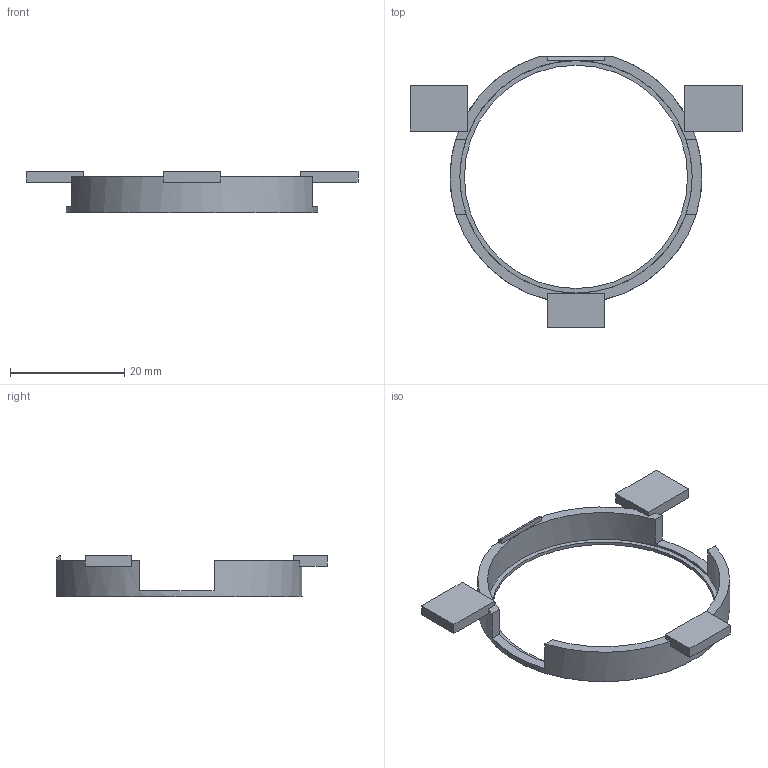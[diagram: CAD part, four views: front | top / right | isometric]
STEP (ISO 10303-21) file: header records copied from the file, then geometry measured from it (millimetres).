
FILE_DESCRIPTION(('Open CASCADE Model'),'2;1');
FILE_NAME('Open CASCADE Shape Model','2026-09-04T20:18:27',('Author'),( 'Open CASCADE'),'Open CASCADE STEP processor 7.7','Open CASCADE 7.7' ,'Unknown');
FILE_SCHEMA(('AUTOMOTIVE_DESIGN { 1 0 10303 214 1 1 1 1 }'));
Length unit declared in the file: millimetre
Products named in the file (1): Open CASCADE STEP translator 7.7 6
Bounding box: 58 x 47.3 x 7.2 mm (x, y, z)
Volume: 1592.8 mm3; surface area: 2636.9 mm2
Topology: 1 solids, 1 shells, 38 faces, 106 edges, 70 vertices
Faces by surface type: plane 34, cylinder 4
Full cylindrical faces by diameter (mm): 39 x1
Entity records: 2657 total; most frequent: CARTESIAN_POINT 533, DIRECTION 399, LINE 267, VECTOR 267, ORIENTED_EDGE 212, PCURVE 212, DEFINITIONAL_REPRESENTATION 212, EDGE_CURVE 106
